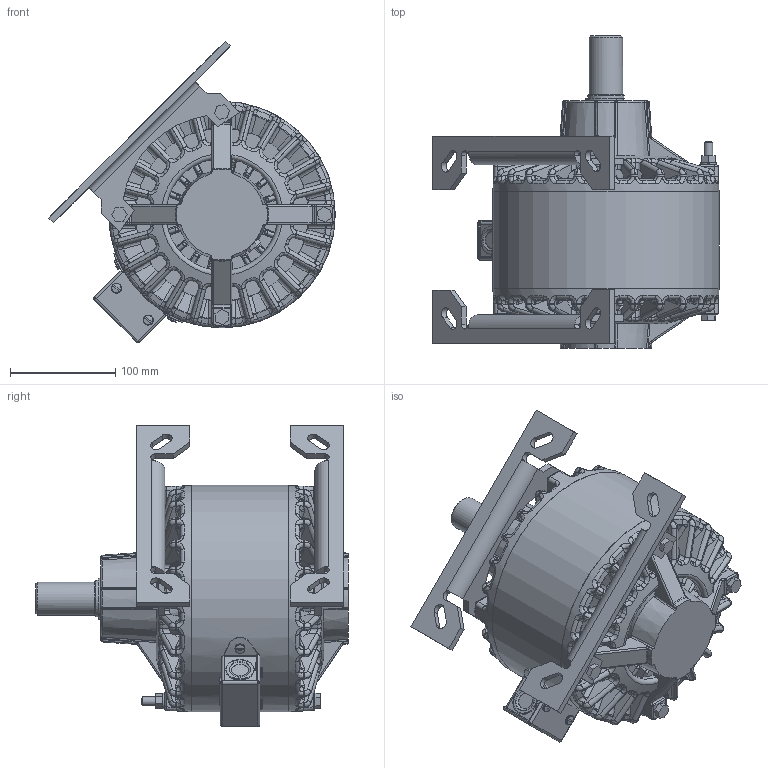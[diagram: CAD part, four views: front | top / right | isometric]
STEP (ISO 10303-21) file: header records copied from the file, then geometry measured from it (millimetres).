
FILE_DESCRIPTION(/* description */ ('STEP AP214'),/* implementation_level */ '2;1');
FILE_NAME(/* name */ '50MB90B20_stp.step',/* time_stamp */ '2026-05-13T10:01:24-05:00',/* author */ (''),/* organization */ (''),/* preprocessor_version */ 'ST-DEVELOPER v20.1',/* originating_system */ 'Autodesk Translation Framework v15.8.0.0',/* authorisation */ '');
FILE_SCHEMA (('AUTOMOTIVE_DESIGN { 1 0 10303 214 3 1 1 }'));
Products named in the file (1): 50MB90B20_asm_stp
Bounding box: 272.92 x 297.74 x 287.12 mm (x, y, z)
Volume: 3228225.6 mm3; surface area: 665127 mm2
Topology: 4 solids, 13 shells, 3108 faces, 7859 edges, 4697 vertices
Faces by surface type: bspline 1010, cylinder 791, plane 589, torus 386, cone 204, sphere 128
Full cylindrical faces by diameter (mm): 3.795 x4, 4.039 x4, 6.35 x4, 7.938 x8, 7.95 x1, 8.712 x1, 9.474 x4, 9.525 x8, 9.576 x8, 12.065 x1, 12.7 x1, 17.45 x1, 17.475 x1, 22.225 x3, 25.4 x1, 31.674 x1, 33.401 x2, 34.138 x1, 34.884 x2, 34.999 x2, 35 x1, 35.011 x1, 40.4 x4, 53.975 x1, 54.71 x2, 56.6 x4, 61.9 x1, 61.985 x2, 72.847 x1, 92.075 x1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
Entity records: 153175 total; most frequent: CARTESIAN_POINT 85108, ORIENTED_EDGE 15570, DIRECTION 12930, EDGE_CURVE 7785, AXIS2_PLACEMENT_3D 5467, VERTEX_POINT 4705, EDGE_LOOP 3278, CIRCLE 3226
